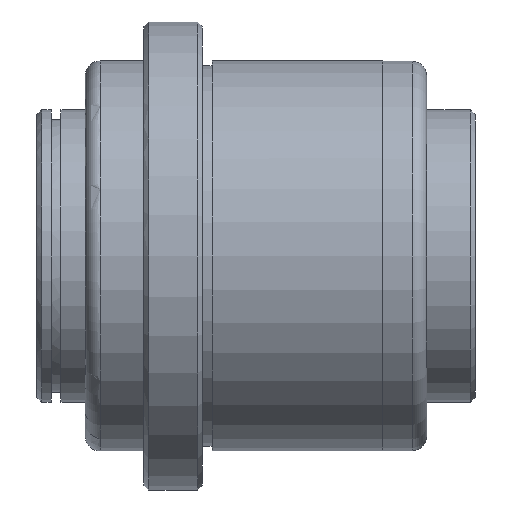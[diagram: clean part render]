
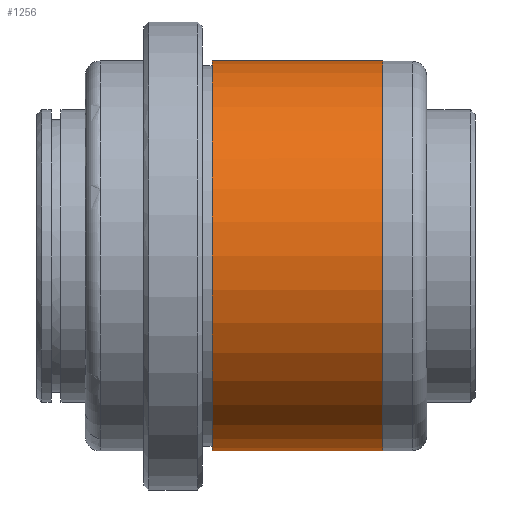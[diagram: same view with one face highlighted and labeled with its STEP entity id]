
A CAD part, front view. The second image highlights one B-rep face of the part: STEP entity #1256.
In plain terms, the highlighted cylindrical face has radius 20 mm (diameter 40 mm), a partial arc.
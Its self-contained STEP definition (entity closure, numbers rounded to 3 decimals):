
#1090=CARTESIAN_POINT('Vertex',(30.5,0.,20.)) ;
#1093=CARTESIAN_POINT('Axis2P3D Location',(30.5,0.,0.)) ;
#1097=CARTESIAN_POINT('Vertex',(30.5,-20.,0.)) ;
#1100=CARTESIAN_POINT('Axis2P3D Location',(30.5,0.,0.)) ;
#1104=CARTESIAN_POINT('Vertex',(30.5,0.,-20.)) ;
#1196=CARTESIAN_POINT('Line Origine',(35.,0.,20.)) ;
#1200=CARTESIAN_POINT('Vertex',(13.,0.,20.)) ;
#1203=CARTESIAN_POINT('Line Origine',(35.,0.,-20.)) ;
#1207=CARTESIAN_POINT('Vertex',(13.,0.,-20.)) ;
#1231=CARTESIAN_POINT('Axis2P3D Location',(35.,0.,0.)) ;
#1236=CARTESIAN_POINT('Axis2P3D Location',(13.,0.,0.)) ;
#1240=CARTESIAN_POINT('Vertex',(13.,-20.,0.)) ;
#1243=CARTESIAN_POINT('Axis2P3D Location',(13.,0.,0.)) ;
#1094=DIRECTION('Axis2P3D Direction',(1.,0.,-0.)) ;
#1101=DIRECTION('Axis2P3D Direction',(1.,0.,-0.)) ;
#1197=DIRECTION('Vector Direction',(-1.,0.,0.)) ;
#1204=DIRECTION('Vector Direction',(-1.,0.,0.)) ;
#1232=DIRECTION('Axis2P3D Direction',(-1.,-0.,-0.)) ;
#1233=DIRECTION('Axis2P3D XDirection',(0.,0.,-1.)) ;
#1237=DIRECTION('Axis2P3D Direction',(-1.,-0.,-0.)) ;
#1244=DIRECTION('Axis2P3D Direction',(-1.,-0.,-0.)) ;
#1095=AXIS2_PLACEMENT_3D('Circle Axis2P3D',#1093,#1094,$) ;
#1102=AXIS2_PLACEMENT_3D('Circle Axis2P3D',#1100,#1101,$) ;
#1234=AXIS2_PLACEMENT_3D('Cylinder Axis2P3D',#1231,#1232,#1233) ;
#1238=AXIS2_PLACEMENT_3D('Circle Axis2P3D',#1236,#1237,$) ;
#1245=AXIS2_PLACEMENT_3D('Circle Axis2P3D',#1243,#1244,$) ;
#1249=ORIENTED_EDGE('',*,*,#1209,.T.) ;
#1250=ORIENTED_EDGE('',*,*,#1106,.F.) ;
#1251=ORIENTED_EDGE('',*,*,#1099,.F.) ;
#1252=ORIENTED_EDGE('',*,*,#1202,.T.) ;
#1253=ORIENTED_EDGE('',*,*,#1242,.T.) ;
#1254=ORIENTED_EDGE('',*,*,#1247,.T.) ;
#1198=VECTOR('Line Direction',#1197,1.) ;
#1205=VECTOR('Line Direction',#1204,1.) ;
#1256=ADVANCED_FACE('732-25',(#1255),#1235,.T.) ;
#1096=CIRCLE('generated circle',#1095,20.) ;
#1103=CIRCLE('generated circle',#1102,20.) ;
#1239=CIRCLE('generated circle',#1238,20.) ;
#1246=CIRCLE('generated circle',#1245,20.) ;
#1235=CYLINDRICAL_SURFACE('generated cylinder',#1234,20.) ;
#1099=EDGE_CURVE('',#1091,#1098,#1096,.T.) ;
#1106=EDGE_CURVE('',#1098,#1105,#1103,.T.) ;
#1202=EDGE_CURVE('',#1091,#1201,#1199,.T.) ;
#1209=EDGE_CURVE('',#1208,#1105,#1206,.F.) ;
#1242=EDGE_CURVE('',#1201,#1241,#1239,.F.) ;
#1247=EDGE_CURVE('',#1241,#1208,#1246,.F.) ;
#1248=EDGE_LOOP('',(#1249,#1250,#1251,#1252,#1253,#1254)) ;
#1255=FACE_OUTER_BOUND('',#1248,.T.) ;
#1199=LINE('Line',#1196,#1198) ;
#1206=LINE('Line',#1203,#1205) ;
#1091=VERTEX_POINT('',#1090) ;
#1098=VERTEX_POINT('',#1097) ;
#1105=VERTEX_POINT('',#1104) ;
#1201=VERTEX_POINT('',#1200) ;
#1208=VERTEX_POINT('',#1207) ;
#1241=VERTEX_POINT('',#1240) ;
